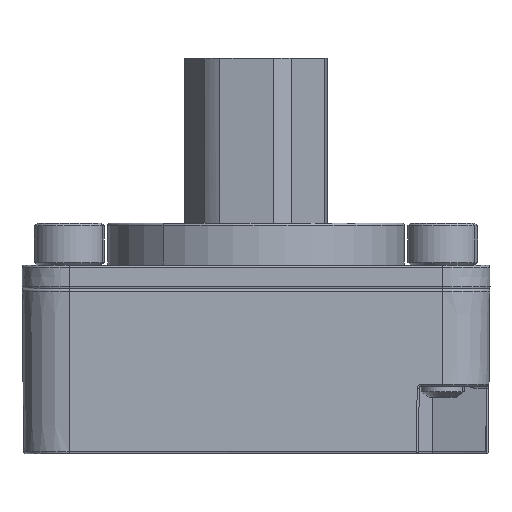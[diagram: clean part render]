
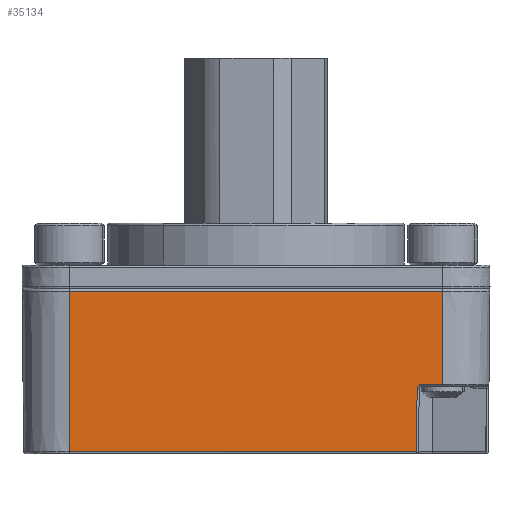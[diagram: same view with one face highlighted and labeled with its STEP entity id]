
A CAD part, left-side view. The second image highlights one B-rep face of the part: STEP entity #35134.
In plain terms, the highlighted planar face has unit normal (-1, 0, -0.009).
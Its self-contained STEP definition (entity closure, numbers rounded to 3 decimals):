
#431 = DIRECTION ( 'NONE',  ( -0.009, 0., 1. ) ) ;
#2246 = CARTESIAN_POINT ( 'NONE',  ( -22.5, -17.961, 7.938 ) ) ;
#2649 = CARTESIAN_POINT ( 'NONE',  ( -22.42, -17.961, -1.214 ) ) ;
#3111 = CARTESIAN_POINT ( 'NONE',  ( -22.42, -15.921, -1.214 ) ) ;
#4103 = LINE ( 'NONE', #27429, #45386 ) ;
#4505 = LINE ( 'NONE', #24544, #70291 ) ;
#5166 = CARTESIAN_POINT ( 'NONE',  ( -22.419, -15.509, -1.378 ) ) ;
#7244 = EDGE_CURVE ( 'NONE', #64959, #64641, #22023, .T. ) ;
#8255 = DIRECTION ( 'NONE',  ( 0., -1., 0. ) ) ;
#9560 = LINE ( 'NONE', #2649, #16621 ) ;
#10779 = CARTESIAN_POINT ( 'NONE',  ( -22.418, -15.509, -1.41 ) ) ;
#14155 = CARTESIAN_POINT ( 'NONE',  ( -22.498, -17.961, 7.736 ) ) ;
#15525 = LINE ( 'NONE', #10779, #44516 ) ;
#16621 = VECTOR ( 'NONE', #8255, 1000. ) ;
#19788 = VERTEX_POINT ( 'NONE', #14155 ) ;
#19921 = AXIS2_PLACEMENT_3D ( 'NONE', #61521, #45093, #431 ) ;
#21248 = DIRECTION ( 'NONE',  ( -0.009, 0., 1. ) ) ;
#22023 =( BOUNDED_CURVE ( )  B_SPLINE_CURVE ( 3, ( #22168, #27838, #5166, #50346 ),
 .UNSPECIFIED., .F., .F. ) 
 B_SPLINE_CURVE_WITH_KNOTS ( ( 4, 4 ),
 ( 1.537, 3.099 ),
 .UNSPECIFIED. ) 
 CURVE ( )  GEOMETRIC_REPRESENTATION_ITEM ( )  RATIONAL_B_SPLINE_CURVE ( ( 1., 0.807, 0.807, 1. ) ) 
 REPRESENTATION_ITEM ( '' )  );
#22168 = CARTESIAN_POINT ( 'NONE',  ( -22.42, -15.921, -1.214 ) ) ;
#23040 = ORIENTED_EDGE ( 'NONE', *, *, #63581, .T. ) ;
#24544 = CARTESIAN_POINT ( 'NONE',  ( -22.498, -22.5, 7.736 ) ) ;
#25403 = EDGE_CURVE ( 'NONE', #56107, #69393, #4103, .T. ) ;
#25644 = VECTOR ( 'NONE', #39363, 1000. ) ;
#27429 = CARTESIAN_POINT ( 'NONE',  ( -22.5, 17.961, 7.938 ) ) ;
#27838 = CARTESIAN_POINT ( 'NONE',  ( -22.42, -15.68, -1.214 ) ) ;
#29956 = ORIENTED_EDGE ( 'NONE', *, *, #7244, .F. ) ;
#32581 = CARTESIAN_POINT ( 'NONE',  ( -22.498, 17.961, 7.736 ) ) ;
#33665 = PLANE ( 'NONE',  #19921 ) ;
#33999 = ORIENTED_EDGE ( 'NONE', *, *, #63970, .T. ) ;
#34965 = VECTOR ( 'NONE', #46672, 1000. ) ;
#35134 = ADVANCED_FACE ( 'NONE', ( #67084 ), #33665, .T. ) ;
#39363 = DIRECTION ( 'NONE',  ( 0., -1., 0. ) ) ;
#39670 = EDGE_CURVE ( 'NONE', #64959, #46540, #9560, .T. ) ;
#41789 = EDGE_CURVE ( 'NONE', #46540, #19788, #65527, .T. ) ;
#44516 = VECTOR ( 'NONE', #55481, 1000. ) ;
#44671 = EDGE_LOOP ( 'NONE', ( #29956, #60660, #56479, #33999, #62419, #23040, #45913 ) ) ;
#45093 = DIRECTION ( 'NONE',  ( -1., 0., -0.009 ) ) ;
#45386 = VECTOR ( 'NONE', #21248, 1000. ) ;
#45660 = CARTESIAN_POINT ( 'NONE',  ( -22.42, -17.961, -1.214 ) ) ;
#45913 = ORIENTED_EDGE ( 'NONE', *, *, #53193, .T. ) ;
#46540 = VERTEX_POINT ( 'NONE', #45660 ) ;
#46672 = DIRECTION ( 'NONE',  ( -0.009, 0., 1. ) ) ;
#47824 = CARTESIAN_POINT ( 'NONE',  ( -22.363, -15.437, -7.739 ) ) ;
#49189 = VERTEX_POINT ( 'NONE', #47824 ) ;
#50295 = CARTESIAN_POINT ( 'NONE',  ( -22.417, -15.506, -1.611 ) ) ;
#50346 = CARTESIAN_POINT ( 'NONE',  ( -22.417, -15.506, -1.611 ) ) ;
#52995 = CARTESIAN_POINT ( 'NONE',  ( -22.363, 17.961, -7.739 ) ) ;
#53193 = EDGE_CURVE ( 'NONE', #49189, #64641, #15525, .T. ) ;
#55481 = DIRECTION ( 'NONE',  ( -0.009, -0.011, 1. ) ) ;
#56107 = VERTEX_POINT ( 'NONE', #52995 ) ;
#56479 = ORIENTED_EDGE ( 'NONE', *, *, #41789, .T. ) ;
#58937 = LINE ( 'NONE', #67228, #25644 ) ;
#60660 = ORIENTED_EDGE ( 'NONE', *, *, #39670, .T. ) ;
#61521 = CARTESIAN_POINT ( 'NONE',  ( -22.5, -22.5, 7.938 ) ) ;
#62419 = ORIENTED_EDGE ( 'NONE', *, *, #25403, .F. ) ;
#62972 = DIRECTION ( 'NONE',  ( 0., 1., 0. ) ) ;
#63581 = EDGE_CURVE ( 'NONE', #56107, #49189, #58937, .T. ) ;
#63970 = EDGE_CURVE ( 'NONE', #19788, #69393, #4505, .T. ) ;
#64641 = VERTEX_POINT ( 'NONE', #50295 ) ;
#64959 = VERTEX_POINT ( 'NONE', #3111 ) ;
#65527 = LINE ( 'NONE', #2246, #34965 ) ;
#67084 = FACE_OUTER_BOUND ( 'NONE', #44671, .T. ) ;
#67228 = CARTESIAN_POINT ( 'NONE',  ( -22.363, -15.695, -7.739 ) ) ;
#69393 = VERTEX_POINT ( 'NONE', #32581 ) ;
#70291 = VECTOR ( 'NONE', #62972, 1000. ) ;
